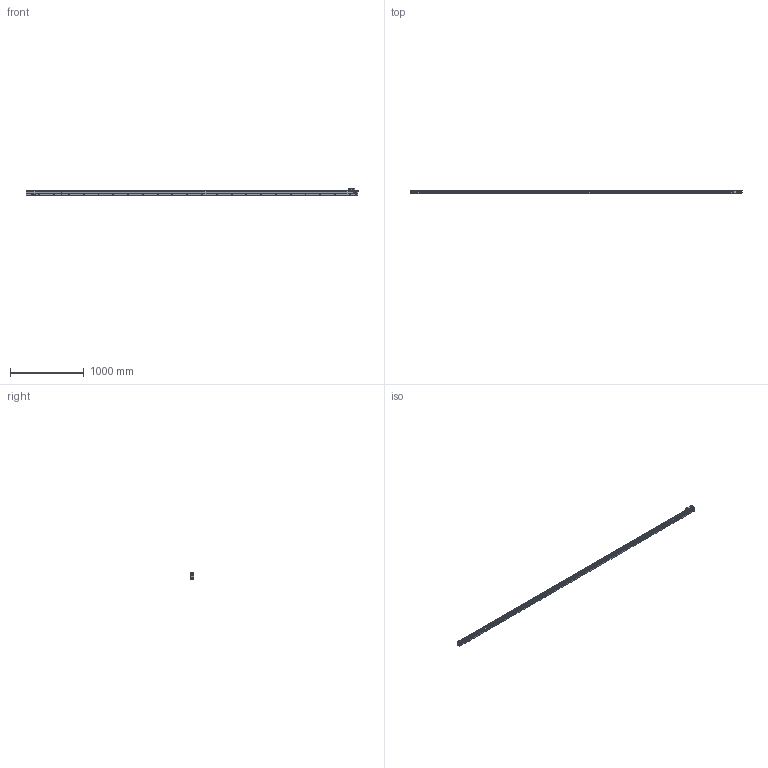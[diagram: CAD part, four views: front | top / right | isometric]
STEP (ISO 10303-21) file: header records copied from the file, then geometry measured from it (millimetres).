
FILE_DESCRIPTION(('Creo Elements/Direct Modeling STEP Export'),'2;1');
FILE_NAME('REGLA_L3_4240.stp','2021-02-03T11:23:02',(''),(''),'Creo Elements/Direct Modeling STEP processor for AP214 (Solid Model)','Creo Elements/Direct Modeling 19.0G 27-Nov-2017 (C) Parametric Technology GmbH','');
FILE_SCHEMA(('AUTOMOTIVE_DESIGN { 1 0 10303 214 1 1 1 1 }'));
Length unit declared in the file: millimetre
Products named in the file (3): CABEZA_L3_M8; PERFIL_L3_4240; MOD_L3_4240
Assembly tree (2 placements, depth 2):
  MOD_L3_4240
    PERFIL_L3_4240
    CABEZA_L3_M8
Bounding box: 4490 x 50 x 85 mm (x, y, z)
Volume: 11671739.8 mm3; surface area: 1300375.3 mm2
Topology: 2 solids, 2 shells, 2020 faces, 5812 edges, 3893 vertices
Faces by surface type: plane 1022, cylinder 691, cone 192, bspline 59, torus 50, extrusion 6
Entity records: 82661 total; most frequent: CARTESIAN_POINT 24355, ORIENTED_EDGE 11608, DIRECTION 10206, EDGE_CURVE 5804, VERTEX_POINT 3893, VECTOR 3650, LINE 3644, AXIS2_PLACEMENT_3D 3278
